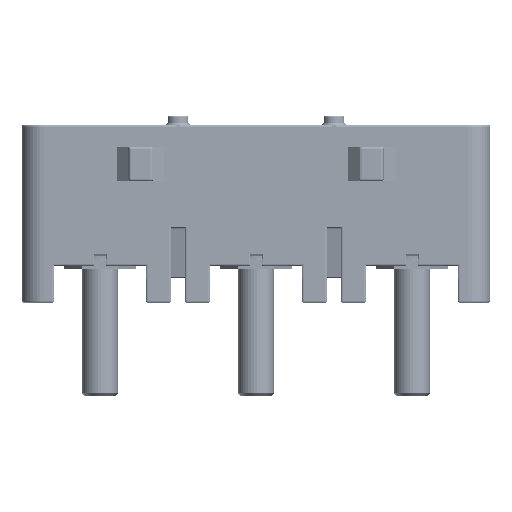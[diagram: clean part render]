
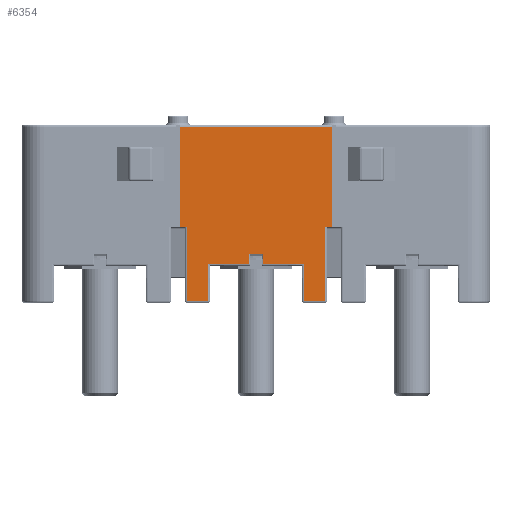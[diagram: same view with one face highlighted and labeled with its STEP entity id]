
A CAD part, front view. The second image highlights one B-rep face of the part: STEP entity #6354.
In plain terms, the highlighted planar face has unit normal (0, -1, 0) as drawn and (0, 1, 0) by its records, which use the part's own axes.
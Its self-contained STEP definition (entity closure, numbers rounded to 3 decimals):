
#6354=ADVANCED_FACE('',(#8524),#7585,.F.);
#7585=PLANE('',#41976);
#8524=FACE_OUTER_BOUND('',#11034,.T.);
#11034=EDGE_LOOP('',(#16407,#16408,#16409,#16410,#16411,#16412,#16413,#16414,
#16415,#16416,#16417,#16418,#16419,#16420,#16421,#16422));
#16407=ORIENTED_EDGE('',*,*,#26283,.T.);
#16408=ORIENTED_EDGE('',*,*,#26284,.T.);
#16409=ORIENTED_EDGE('',*,*,#26285,.T.);
#16410=ORIENTED_EDGE('',*,*,#26286,.T.);
#16411=ORIENTED_EDGE('',*,*,#26287,.T.);
#16412=ORIENTED_EDGE('',*,*,#26288,.T.);
#16413=ORIENTED_EDGE('',*,*,#26289,.T.);
#16414=ORIENTED_EDGE('',*,*,#26290,.T.);
#16415=ORIENTED_EDGE('',*,*,#26291,.F.);
#16416=ORIENTED_EDGE('',*,*,#26292,.F.);
#16417=ORIENTED_EDGE('',*,*,#26293,.T.);
#16418=ORIENTED_EDGE('',*,*,#26294,.T.);
#16419=ORIENTED_EDGE('',*,*,#26295,.F.);
#16420=ORIENTED_EDGE('',*,*,#26296,.T.);
#16421=ORIENTED_EDGE('',*,*,#26297,.T.);
#16422=ORIENTED_EDGE('',*,*,#26298,.T.);
#22748=VERTEX_POINT('',#72448);
#22749=VERTEX_POINT('',#72449);
#22750=VERTEX_POINT('',#72451);
#22751=VERTEX_POINT('',#72453);
#22752=VERTEX_POINT('',#72455);
#22753=VERTEX_POINT('',#72457);
#22754=VERTEX_POINT('',#72459);
#22755=VERTEX_POINT('',#72461);
#22756=VERTEX_POINT('',#72463);
#22757=VERTEX_POINT('',#72465);
#22758=VERTEX_POINT('',#72467);
#22759=VERTEX_POINT('',#72469);
#22760=VERTEX_POINT('',#72471);
#22761=VERTEX_POINT('',#72473);
#22762=VERTEX_POINT('',#72475);
#22763=VERTEX_POINT('',#72477);
#26283=EDGE_CURVE('',#22748,#22749,#35399,.T.);
#26284=EDGE_CURVE('',#22749,#22750,#35400,.T.);
#26285=EDGE_CURVE('',#22750,#22751,#35401,.T.);
#26286=EDGE_CURVE('',#22751,#22752,#35402,.T.);
#26287=EDGE_CURVE('',#22752,#22753,#35403,.T.);
#26288=EDGE_CURVE('',#22753,#22754,#35404,.T.);
#26289=EDGE_CURVE('',#22754,#22755,#35405,.T.);
#26290=EDGE_CURVE('',#22755,#22756,#35406,.T.);
#26291=EDGE_CURVE('',#22757,#22756,#35407,.T.);
#26292=EDGE_CURVE('',#22758,#22757,#35408,.T.);
#26293=EDGE_CURVE('',#22758,#22759,#35409,.T.);
#26294=EDGE_CURVE('',#22759,#22760,#35410,.T.);
#26295=EDGE_CURVE('',#22761,#22760,#35411,.T.);
#26296=EDGE_CURVE('',#22761,#22762,#35412,.T.);
#26297=EDGE_CURVE('',#22762,#22763,#35413,.T.);
#26298=EDGE_CURVE('',#22763,#22748,#35414,.T.);
#35399=LINE('',#72447,#38700);
#35400=LINE('',#72450,#38701);
#35401=LINE('',#72452,#38702);
#35402=LINE('',#72454,#38703);
#35403=LINE('',#72456,#38704);
#35404=LINE('',#72458,#38705);
#35405=LINE('',#72460,#38706);
#35406=LINE('',#72462,#38707);
#35407=LINE('',#72464,#38708);
#35408=LINE('',#72466,#38709);
#35409=LINE('',#72468,#38710);
#35410=LINE('',#72470,#38711);
#35411=LINE('',#72472,#38712);
#35412=LINE('',#72474,#38713);
#35413=LINE('',#72476,#38714);
#35414=LINE('',#72478,#38715);
#38700=VECTOR('',#50321,1.);
#38701=VECTOR('',#50322,1.);
#38702=VECTOR('',#50323,1.);
#38703=VECTOR('',#50324,1.);
#38704=VECTOR('',#50325,1.);
#38705=VECTOR('',#50326,1.);
#38706=VECTOR('',#50327,1.);
#38707=VECTOR('',#50328,1.);
#38708=VECTOR('',#50329,1.);
#38709=VECTOR('',#50330,1.);
#38710=VECTOR('',#50331,1.);
#38711=VECTOR('',#50332,1.);
#38712=VECTOR('',#50333,1.);
#38713=VECTOR('',#50334,1.);
#38714=VECTOR('',#50335,1.);
#38715=VECTOR('',#50336,1.);
#41976=AXIS2_PLACEMENT_3D('',#72479,#50337,#50338);
#50321=DIRECTION('',(-1.,0.,0.));
#50322=DIRECTION('',(0.,0.,1.));
#50323=DIRECTION('',(-1.,0.,0.));
#50324=DIRECTION('',(0.,0.,-1.));
#50325=DIRECTION('',(-1.,0.,0.));
#50326=DIRECTION('',(0.,0.,-1.));
#50327=DIRECTION('',(-1.,0.,0.));
#50328=DIRECTION('',(0.,0.,1.));
#50329=DIRECTION('',(1.,0.,0.));
#50330=DIRECTION('',(0.,0.,-1.));
#50331=DIRECTION('',(1.,0.,0.));
#50332=DIRECTION('',(0.,0.,-1.));
#50333=DIRECTION('',(1.,0.,0.));
#50334=DIRECTION('',(0.,0.,-1.));
#50335=DIRECTION('',(-1.,0.,0.));
#50336=DIRECTION('',(0.,0.,1.));
#50337=DIRECTION('',(0.,-1.,0.));
#50338=DIRECTION('',(0.,0.,-1.));
#72447=CARTESIAN_POINT('',(107.55,113.5,17.5));
#72448=CARTESIAN_POINT('',(126.5,113.5,17.5));
#72449=CARTESIAN_POINT('',(108.05,113.5,17.5));
#72450=CARTESIAN_POINT('',(108.05,113.5,0.));
#72451=CARTESIAN_POINT('',(108.05,113.5,22.));
#72452=CARTESIAN_POINT('',(102.45,113.5,22.));
#72453=CARTESIAN_POINT('',(101.95,113.5,22.));
#72454=CARTESIAN_POINT('',(101.95,113.5,0.));
#72455=CARTESIAN_POINT('',(101.95,113.5,17.5));
#72456=CARTESIAN_POINT('',(84.5,113.5,17.5));
#72457=CARTESIAN_POINT('',(83.5,113.5,17.5));
#72458=CARTESIAN_POINT('',(83.5,113.5,0.));
#72459=CARTESIAN_POINT('',(83.5,113.5,1.));
#72460=CARTESIAN_POINT('',(73.,113.5,1.));
#72461=CARTESIAN_POINT('',(74.,113.5,1.));
#72462=CARTESIAN_POINT('',(74.,113.5,0.));
#72463=CARTESIAN_POINT('',(74.,113.5,34.));
#72464=CARTESIAN_POINT('',(67.,113.5,34.));
#72465=CARTESIAN_POINT('',(71.1,113.5,34.));
#72466=CARTESIAN_POINT('',(71.1,113.5,92.07));
#72467=CARTESIAN_POINT('',(71.1,113.5,79.));
#72468=CARTESIAN_POINT('',(10.,113.5,79.));
#72469=CARTESIAN_POINT('',(138.9,113.5,79.));
#72470=CARTESIAN_POINT('',(138.9,113.5,92.07));
#72471=CARTESIAN_POINT('',(138.9,113.5,34.));
#72472=CARTESIAN_POINT('',(137.,113.5,34.));
#72473=CARTESIAN_POINT('',(136.,113.5,34.));
#72474=CARTESIAN_POINT('',(136.,113.5,0.));
#72475=CARTESIAN_POINT('',(136.,113.5,1.));
#72476=CARTESIAN_POINT('',(125.5,113.5,1.));
#72477=CARTESIAN_POINT('',(126.5,113.5,1.));
#72478=CARTESIAN_POINT('',(126.5,113.5,0.));
#72479=CARTESIAN_POINT('',(10.,113.5,0.));
